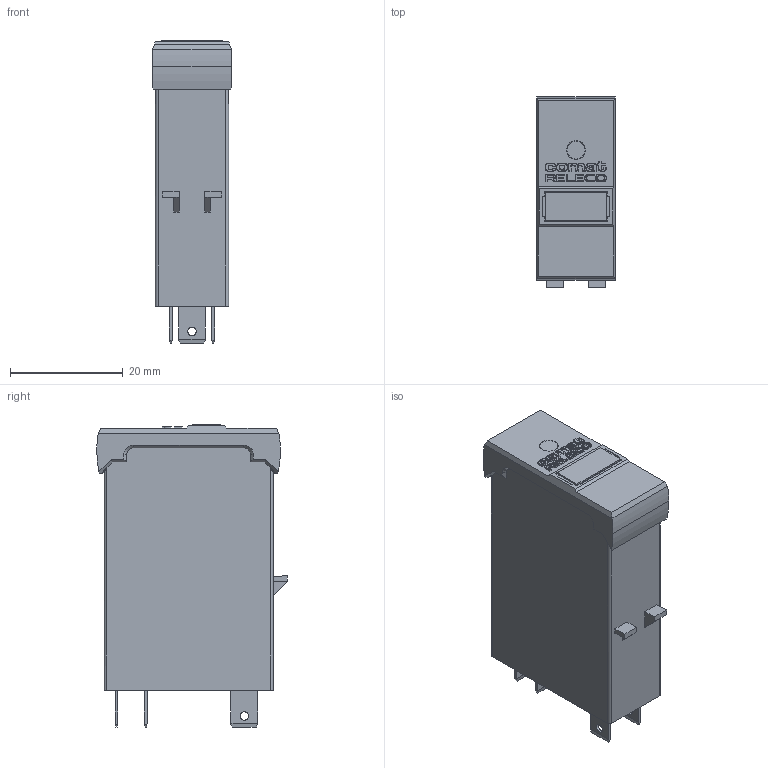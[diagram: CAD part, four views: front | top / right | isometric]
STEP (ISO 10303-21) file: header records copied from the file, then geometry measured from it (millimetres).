
FILE_DESCRIPTION (( 'STEP AP214' ), '1' );
FILE_NAME ('R10-Z1.STEP', '2024-03-27T12:02:55', ( '' ), ( '' ), 'SwSTEP 2.0', 'SolidWorks 2022', '' );
FILE_SCHEMA (( 'AUTOMOTIVE_DESIGN' ));
Length unit declared in the file: millimetre
Products named in the file (1): R10-Z1
Bounding box: 14 x 33.78 x 53.7 mm (x, y, z)
Volume: 18532.4 mm3; surface area: 5377.4 mm2
Topology: 1 solids, 1 shells, 650 faces, 1651 edges, 1051 vertices
Faces by surface type: plane 385, bspline 147, cylinder 110, cone 6, torus 2
Entity records: 24379 total; most frequent: CARTESIAN_POINT 9785, ORIENTED_EDGE 3302, DIRECTION 2439, EDGE_CURVE 1651, VECTOR 1199, LINE 1199, VERTEX_POINT 1051, EDGE_LOOP 706
